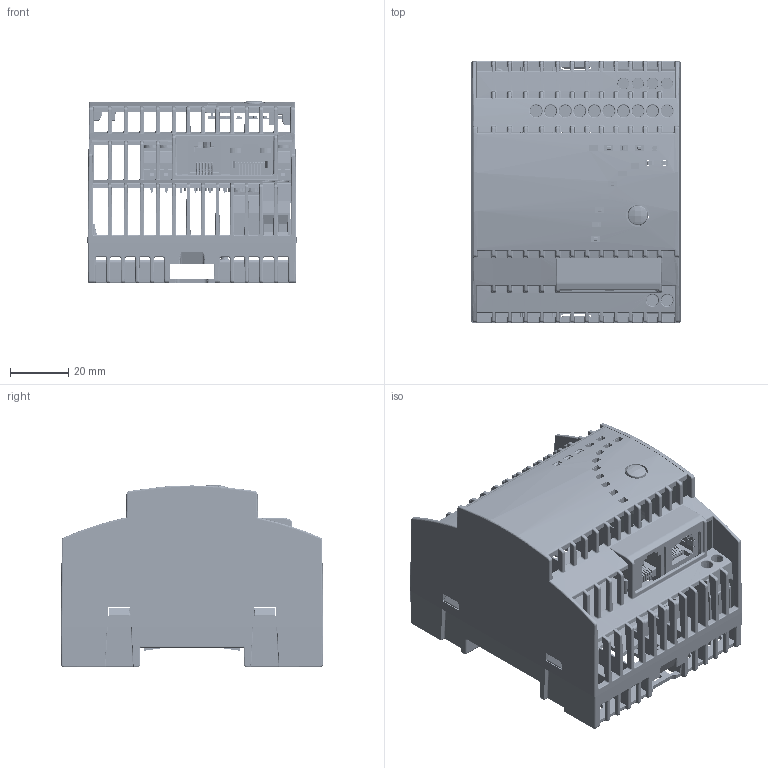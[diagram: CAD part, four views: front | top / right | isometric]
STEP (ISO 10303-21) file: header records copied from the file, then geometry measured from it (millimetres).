
FILE_DESCRIPTION(/* description */ (''),/* implementation_level */ '2;1');
FILE_NAME(/* name */ 'Formato Stp.stp',/* time_stamp */ '2023-12-05T09:30:11+01:00',/* author */ ('tecnico9'),/* organization */ (''),/* preprocessor_version */ 'ST-DEVELOPER v20',/* originating_system */ 'Autodesk Inventor 2024',/* authorisation */ '');
FILE_SCHEMA (('AUTOMOTIVE_DESIGN { 1 0 10303 214 3 1 1 }'));
Products named in the file (17): Assembly A2; Shapes016; A24_323_402A2_POWER; EUROCLAMP_4P_MVE254-5-V_CMP-002-00079-4; EUROCLAMP_2P_P5_MVE252-5-V_CMP-002-00077-3; A24_323_405A2_LED; A-0805-LED_CMP-007-00022-2; A-0805-LED_CMP-007-00013-7; 0606-LEDBIC_CMP-007-00023-2; A-0805-LED_CMP-007-00011-7; A-0805-LED_CMP-007-00015-3; A24_323_404A2_CONNECTIVITY; EUROCLAMP_5P_MV155-5-V_CMP-002-00108-2; RJ45_RA_SH_LED_CMP-002-00075-5; RJ11_90_H14-5_CMP-003-0046-5; M4M_00C_007A1_CBI60W_Cover_Top; Part1
Assembly tree (26 placements, depth 3):
  Assembly A2
    Shapes016
    A24_323_402A2_POWER
      EUROCLAMP_4P_MVE254-5-V_CMP-002-00079-4
      EUROCLAMP_2P_P5_MVE252-5-V_CMP-002-00077-3
    A24_323_405A2_LED
      A-0805-LED_CMP-007-00022-2
      A-0805-LED_CMP-007-00013-7  x9
      0606-LEDBIC_CMP-007-00023-2  x2
      A-0805-LED_CMP-007-00011-7
      A-0805-LED_CMP-007-00015-3
    A24_323_404A2_CONNECTIVITY
      EUROCLAMP_5P_MV155-5-V_CMP-002-00108-2  x2
      RJ45_RA_SH_LED_CMP-002-00075-5
      RJ11_90_H14-5_CMP-003-0046-5
    M4M_00C_007A1_CBI60W_Cover_Top
    Part1
Bounding box: 71.8 x 90 x 62.76 mm (x, y, z)
Volume: 50865.4 mm3; surface area: 81433.1 mm2
Topology: 43 solids, 43 shells, 6250 faces, 17233 edges, 10836 vertices
Faces by surface type: plane 3054, cylinder 1760, bspline 1374, sphere 48, cone 14
Full cylindrical faces by diameter (mm): 1.5 x1, 2 x1, 2.2 x2, 2.6 x6, 2.85 x6, 3.2 x12, 3.8 x16
Entity records: 300927 total; most frequent: CARTESIAN_POINT 163237, ORIENTED_EDGE 30346, DIRECTION 24616, EDGE_CURVE 15173, VERTEX_POINT 9538, LINE 8884, VECTOR 8884, AXIS2_PLACEMENT_3D 7866
